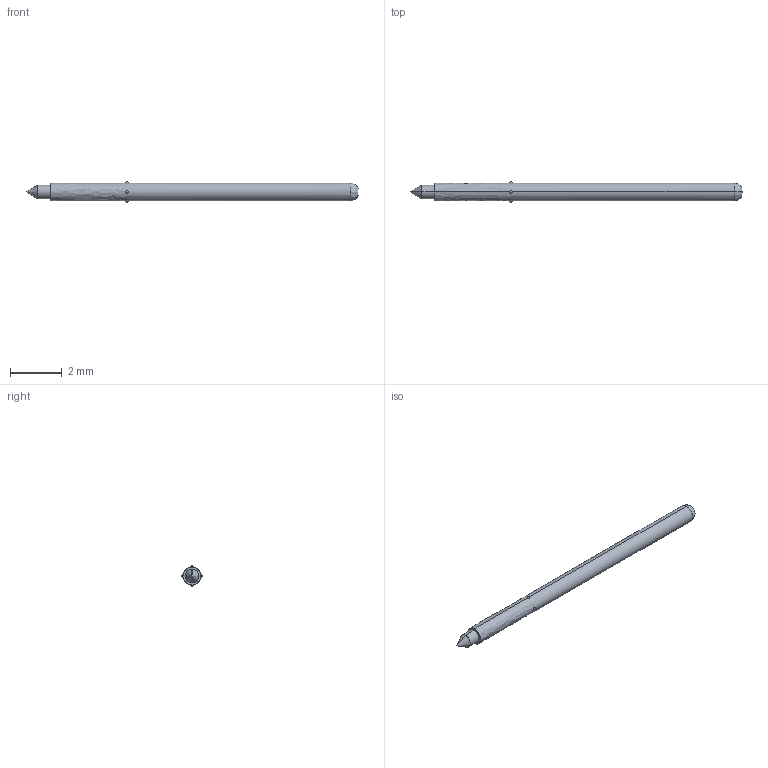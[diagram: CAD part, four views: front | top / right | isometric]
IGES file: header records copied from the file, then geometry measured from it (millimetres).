
Start section: SolidWorks IGES file using analytic representation for surfaces
Global section: file name: O:\PYLON\IGES FILES\P2662B\P2662B-1C1S FULL.IGS; native system: SolidWorks 2015; preprocessor: SolidWorks 2015; author: kgolden; date: 171019.092803; units: inch
Bounding box: 12.85 x 0.79 x 0.79 mm (x, y, z)
Surface area: 29.7 mm2 (no closed solid volume)
Topology: 0 solids, 0 shells, 20 faces, 184 edges, 166 vertices
Faces by surface type: revolution 16, bspline 4
